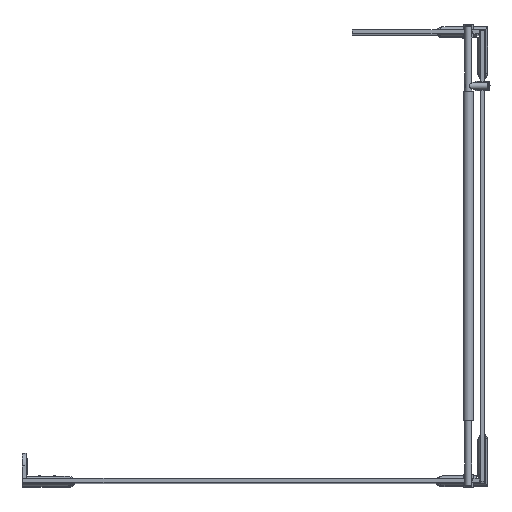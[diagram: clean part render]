
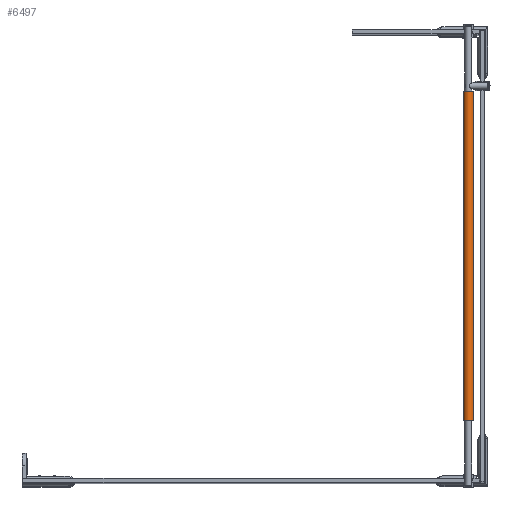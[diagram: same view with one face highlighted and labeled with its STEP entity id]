
A CAD part, top view. The second image highlights one B-rep face of the part: STEP entity #6497.
In plain terms, the highlighted cylindrical face has radius 10 mm (diameter 20 mm), a full revolution.
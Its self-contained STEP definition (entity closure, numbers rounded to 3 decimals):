
#83=FACE_BOUND($,#1352,.T.);
#354=CYLINDRICAL_SURFACE($,#7003,10.);
#486=CIRCLE($,#7000,10.);
#487=CIRCLE($,#7002,10.);
#948=FACE_OUTER_BOUND($,#1351,.T.);
#1351=EDGE_LOOP($,(#5047));
#1352=EDGE_LOOP($,(#5048));
#2934=VERTEX_POINT($,#13704);
#2935=VERTEX_POINT($,#13707);
#3707=EDGE_CURVE($,#2934,#2934,#486,.T.);
#3708=EDGE_CURVE($,#2935,#2935,#487,.T.);
#5047=ORIENTED_EDGE($,*,*,#3708,.F.);
#5048=ORIENTED_EDGE($,*,*,#3707,.F.);
#6497=ADVANCED_FACE($,(#948,#83),#354,.T.);
#7000=AXIS2_PLACEMENT_3D($,#13705,#8292,#8293);
#7002=AXIS2_PLACEMENT_3D($,#13708,#8296,#8297);
#7003=AXIS2_PLACEMENT_3D($,#13709,#8298,#8299);
#8292=DIRECTION('center_axis',(0.,-1.,0.));
#8293=DIRECTION('ref_axis',(-1.,0.,0.));
#8296=DIRECTION('center_axis',(0.,1.,0.));
#8297=DIRECTION('ref_axis',(-1.,0.,0.));
#8298=DIRECTION('center_axis',(0.,1.,0.));
#8299=DIRECTION('ref_axis',(-1.,0.,0.));
#13704=CARTESIAN_POINT('',(1322.326,70.956,1503.444));
#13705=CARTESIAN_POINT('Origin',(1312.326,70.956,1503.444));
#13707=CARTESIAN_POINT('',(1322.326,770.956,1503.444));
#13708=CARTESIAN_POINT('Origin',(1312.326,770.956,1503.444));
#13709=CARTESIAN_POINT('Origin',(1312.326,70.956,1503.444));
